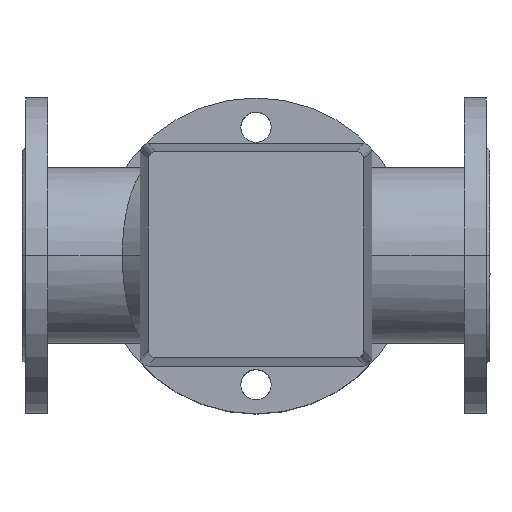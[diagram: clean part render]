
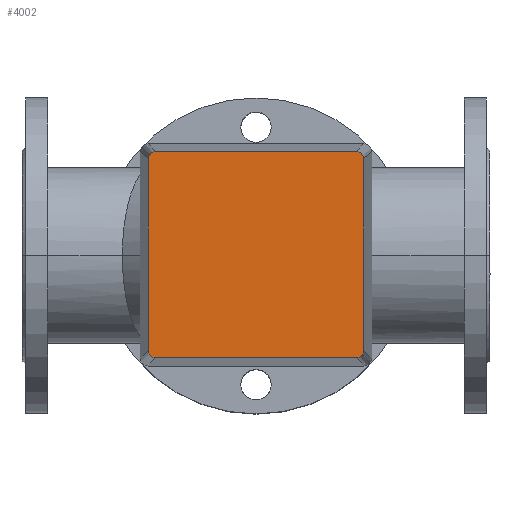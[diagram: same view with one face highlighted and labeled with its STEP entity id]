
A CAD part, top view. The second image highlights one B-rep face of the part: STEP entity #4002.
In plain terms, the highlighted planar face has unit normal (0, 0, 1).
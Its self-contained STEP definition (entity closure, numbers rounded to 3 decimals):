
#304=LINE('',#6923,#514);
#305=LINE('',#6927,#515);
#306=LINE('',#6931,#516);
#307=LINE('',#6934,#517);
#514=VECTOR('',#5573,304.8);
#515=VECTOR('',#5576,304.8);
#516=VECTOR('',#5579,304.8);
#517=VECTOR('',#5582,304.8);
#970=FACE_OUTER_BOUND('',#1271,.T.);
#1271=EDGE_LOOP('',(#3274,#3275,#3276,#3277,#3278,#3279,#3280,#3281));
#1578=CIRCLE('',#4484,6.);
#1579=CIRCLE('',#4485,6.);
#1580=CIRCLE('',#4486,6.);
#1581=CIRCLE('',#4487,6.);
#1911=VERTEX_POINT('',#6919);
#1912=VERTEX_POINT('',#6920);
#1913=VERTEX_POINT('',#6922);
#1914=VERTEX_POINT('',#6924);
#1915=VERTEX_POINT('',#6926);
#1916=VERTEX_POINT('',#6928);
#1917=VERTEX_POINT('',#6930);
#1918=VERTEX_POINT('',#6932);
#2383=EDGE_CURVE('',#1911,#1912,#1578,.T.);
#2384=EDGE_CURVE('',#1912,#1913,#304,.T.);
#2385=EDGE_CURVE('',#1913,#1914,#1579,.T.);
#2386=EDGE_CURVE('',#1914,#1915,#305,.T.);
#2387=EDGE_CURVE('',#1915,#1916,#1580,.T.);
#2388=EDGE_CURVE('',#1916,#1917,#306,.T.);
#2389=EDGE_CURVE('',#1917,#1918,#1581,.T.);
#2390=EDGE_CURVE('',#1918,#1911,#307,.T.);
#3274=ORIENTED_EDGE('',*,*,#2383,.T.);
#3275=ORIENTED_EDGE('',*,*,#2384,.T.);
#3276=ORIENTED_EDGE('',*,*,#2385,.T.);
#3277=ORIENTED_EDGE('',*,*,#2386,.T.);
#3278=ORIENTED_EDGE('',*,*,#2387,.T.);
#3279=ORIENTED_EDGE('',*,*,#2388,.T.);
#3280=ORIENTED_EDGE('',*,*,#2389,.T.);
#3281=ORIENTED_EDGE('',*,*,#2390,.T.);
#3626=PLANE('',#4483);
#4002=ADVANCED_FACE('',(#970),#3626,.T.);
#4483=AXIS2_PLACEMENT_3D('',#6918,#5569,#5570);
#4484=AXIS2_PLACEMENT_3D('',#6921,#5571,#5572);
#4485=AXIS2_PLACEMENT_3D('',#6925,#5574,#5575);
#4486=AXIS2_PLACEMENT_3D('',#6929,#5577,#5578);
#4487=AXIS2_PLACEMENT_3D('',#6933,#5580,#5581);
#5569=DIRECTION('center_axis',(0.,0.,1.));
#5570=DIRECTION('ref_axis',(-1.,0.,0.));
#5571=DIRECTION('center_axis',(0.,0.,1.));
#5572=DIRECTION('ref_axis',(1.,0.,0.));
#5573=DIRECTION('',(0.,-1.,0.));
#5574=DIRECTION('center_axis',(0.,0.,1.));
#5575=DIRECTION('ref_axis',(1.,0.,0.));
#5576=DIRECTION('',(1.,0.,0.));
#5577=DIRECTION('center_axis',(0.,0.,1.));
#5578=DIRECTION('ref_axis',(1.,0.,0.));
#5579=DIRECTION('',(0.,1.,0.));
#5580=DIRECTION('center_axis',(0.,0.,1.));
#5581=DIRECTION('ref_axis',(1.,0.,0.));
#5582=DIRECTION('',(-1.,0.,0.));
#6918=CARTESIAN_POINT('Origin',(0.,0.,
345.));
#6919=CARTESIAN_POINT('',(-82.,92.,345.));
#6920=CARTESIAN_POINT('',(-88.,86.,345.));
#6921=CARTESIAN_POINT('Origin',(-82.,86.,345.));
#6922=CARTESIAN_POINT('',(-88.,-86.,345.));
#6923=CARTESIAN_POINT('',(-88.,-86.,345.));
#6924=CARTESIAN_POINT('',(-82.,-92.,345.));
#6925=CARTESIAN_POINT('Origin',(-82.,-86.,345.));
#6926=CARTESIAN_POINT('',(82.,-92.,345.));
#6927=CARTESIAN_POINT('',(82.,-92.,345.));
#6928=CARTESIAN_POINT('',(88.,-86.,345.));
#6929=CARTESIAN_POINT('Origin',(82.,-86.,345.));
#6930=CARTESIAN_POINT('',(88.,86.,345.));
#6931=CARTESIAN_POINT('',(88.,86.,345.));
#6932=CARTESIAN_POINT('',(82.,92.,345.));
#6933=CARTESIAN_POINT('Origin',(82.,86.,345.));
#6934=CARTESIAN_POINT('',(-82.,92.,345.));
